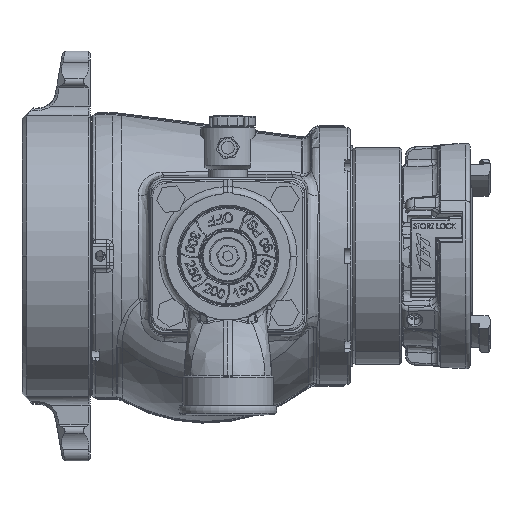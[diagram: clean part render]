
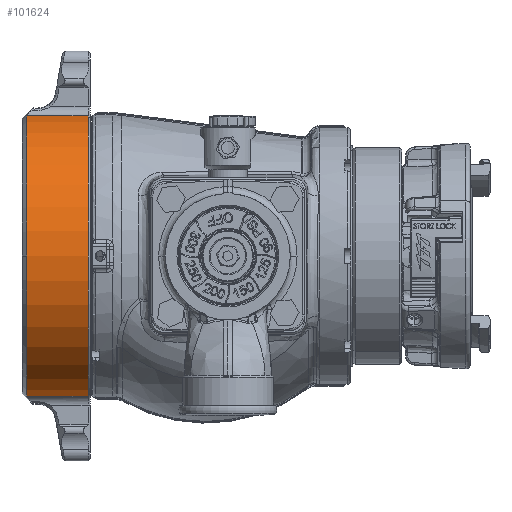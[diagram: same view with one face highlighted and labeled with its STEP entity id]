
A CAD part, front view. The second image highlights one B-rep face of the part: STEP entity #101624.
In plain terms, the highlighted cylindrical face has radius 98.425 mm (diameter 196.85 mm), a partial arc.
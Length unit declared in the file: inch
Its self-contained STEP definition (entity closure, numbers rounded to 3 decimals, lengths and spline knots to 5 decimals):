
#14423 = EDGE_CURVE ( 'NONE', #14850, #14879, #120067, .T. ) ;
#14850 = VERTEX_POINT ( 'NONE', #102223 ) ;
#14879 = VERTEX_POINT ( 'NONE', #102271 ) ;
#17651 = LINE ( 'NONE', #109930, #17654 ) ;
#17654 = VECTOR ( 'NONE', #109939, 39.37008 ) ;
#17655 = CIRCLE ( 'NONE', #58254, 3.875 ) ;
#17658 = LINE ( 'NONE', #109976, #17659 ) ;
#17659 = VECTOR ( 'NONE', #109979, 39.37008 ) ;
#17664 = CIRCLE ( 'NONE', #58256, 3.875 ) ;
#22643 = VERTEX_POINT ( 'NONE', #75693 ) ;
#22665 = VERTEX_POINT ( 'NONE', #75701 ) ;
#22684 = VERTEX_POINT ( 'NONE', #75708 ) ;
#58254 = AXIS2_PLACEMENT_3D ( 'NONE', #109973, #109974, #109975 ) ;
#58256 = AXIS2_PLACEMENT_3D ( 'NONE', #109983, #109984, #109985 ) ;
#59471 = DIRECTION ( 'NONE',  ( 0., 0., -1. ) ) ;
#59483 = DIRECTION ( 'NONE',  ( 1., 0., 0. ) ) ;
#59486 = CARTESIAN_POINT ( 'NONE',  ( -6.01215, -0.44219, 0. ) ) ;
#63780 = ORIENTED_EDGE ( 'NONE', *, *, #92566, .T. ) ;
#63781 = ORIENTED_EDGE ( 'NONE', *, *, #92573, .T. ) ;
#63782 = ORIENTED_EDGE ( 'NONE', *, *, #92576, .F. ) ;
#63783 = ORIENTED_EDGE ( 'NONE', *, *, #14423, .F. ) ;
#63784 = ORIENTED_EDGE ( 'NONE', *, *, #92579, .F. ) ;
#69951 = EDGE_LOOP ( 'NONE', ( #63780, #63781, #63782, #63783, #63784 ) ) ;
#75693 = CARTESIAN_POINT ( 'NONE',  ( -4.21165, -1.13098, 3.81329 ) ) ;
#75701 = CARTESIAN_POINT ( 'NONE',  ( -5.88715, -1.13098, -3.81329 ) ) ;
#75708 = CARTESIAN_POINT ( 'NONE',  ( -4.21165, -1.13098, -3.81329 ) ) ;
#85765 = AXIS2_PLACEMENT_3D ( 'NONE', #59486, #59483, #59471 ) ;
#87047 = FACE_OUTER_BOUND ( 'NONE', #69951, .T. ) ;
#87051 = CYLINDRICAL_SURFACE ( 'NONE', #85765, 3.875 ) ;
#92566 = EDGE_CURVE ( 'NONE', #22665, #22684, #17651, .T. ) ;
#92573 = EDGE_CURVE ( 'NONE', #22684, #22643, #17655, .T. ) ;
#92576 = EDGE_CURVE ( 'NONE', #14879, #22643, #17658, .T. ) ;
#92579 = EDGE_CURVE ( 'NONE', #22665, #14850, #17664, .T. ) ;
#101624 = ADVANCED_FACE ( 'NONE', ( #87047 ), #87051, .T. ) ;
#102223 = CARTESIAN_POINT ( 'NONE',  ( -5.88715, -4.31719, 0. ) ) ;
#102271 = CARTESIAN_POINT ( 'NONE',  ( -5.88715, -1.13098, 3.81329 ) ) ;
#107076 = CARTESIAN_POINT ( 'NONE',  ( -5.88715, -0.44219, 0. ) ) ;
#107078 = DIRECTION ( 'NONE',  ( -1., 0., 0. ) ) ;
#107080 = DIRECTION ( 'NONE',  ( 0., 1., 0. ) ) ;
#109930 = CARTESIAN_POINT ( 'NONE',  ( -6.01215, -1.13098, -3.81329 ) ) ;
#109939 = DIRECTION ( 'NONE',  ( 1., 0., 0. ) ) ;
#109973 = CARTESIAN_POINT ( 'NONE',  ( -4.21165, -0.44219, 0. ) ) ;
#109974 = DIRECTION ( 'NONE',  ( -1., 0., 0. ) ) ;
#109975 = DIRECTION ( 'NONE',  ( 0., 0., -1. ) ) ;
#109976 = CARTESIAN_POINT ( 'NONE',  ( -6.01215, -1.13098, 3.81329 ) ) ;
#109979 = DIRECTION ( 'NONE',  ( 1., 0., 0. ) ) ;
#109983 = CARTESIAN_POINT ( 'NONE',  ( -5.88715, -0.44219, 0. ) ) ;
#109984 = DIRECTION ( 'NONE',  ( -1., 0., 0. ) ) ;
#109985 = DIRECTION ( 'NONE',  ( 0., 1., 0. ) ) ;
#117558 = AXIS2_PLACEMENT_3D ( 'NONE', #107076, #107078, #107080 ) ;
#120067 = CIRCLE ( 'NONE', #117558, 3.875 ) ;
